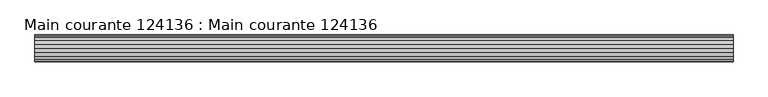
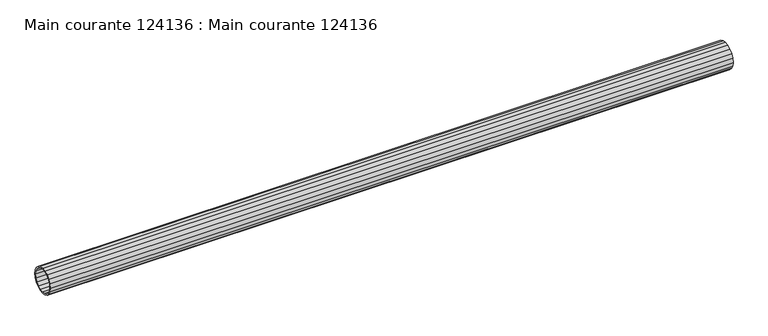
"""IFC4 building model written with IfcOpenShell, lengths in millimetres: beam geometry, Main courante 124136 : Main courante 124136."""

from ifc_helpers import new_model, si_unit, frame, origin, place, context, project, spatial, polyline, outline, extrude, source, transform, mapped, element, save


def main_courante_124136_main_courante_124136_9aaa94e9(model_context):
    return source(origin(), model_context, "Body", "SweptSolid", [
        extrude(outline(polyline([(-35749.8127604, 8787.9680149), (-35742.35, 8789.15), (-35734.8872396, 8787.9680149), (-35728.1549862, 8784.5377604), (-35722.8122396, 8779.1950138), (-35719.3819851, 8772.4627604), (-35718.2, 8765.0), (-35719.3819851, 8757.5372396), (-35722.8122396, 8750.8049862), (-35728.1549862, 8745.4622396), (-35734.8872396, 8742.0319851), (-35742.35, 8740.85), (-35749.8127604, 8742.0319851), (-35756.5450138, 8745.4622396), (-35761.8877604, 8750.8049862), (-35765.3180149, 8757.5372396), (-35766.5, 8765.0), (-35765.3180149, 8772.4627604), (-35761.8877604, 8779.1950138), (-35756.5450138, 8784.5377604), (-35749.8127604, 8787.9680149)]), holes=[polyline([(-35721.7596264, 8771.6902179), (-35724.8347821, 8777.7255507), (-35729.6244493, 8782.5152179), (-35735.6597821, 8785.5903736), (-35742.35, 8786.65), (-35749.0402179, 8785.5903736), (-35755.0755507, 8782.5152179), (-35759.8652179, 8777.7255507), (-35762.9403736, 8771.6902179), (-35764.0, 8765.0), (-35762.9403736, 8758.3097821), (-35759.8652179, 8752.2744493), (-35755.0755507, 8747.4847821), (-35749.0402179, 8744.4096264), (-35742.35, 8743.35), (-35735.6597821, 8744.4096264), (-35729.6244493, 8747.4847821), (-35724.8347821, 8752.2744493), (-35721.7596264, 8758.3097821), (-35720.7, 8765.0), (-35721.7596264, 8771.6902179)])]), frame((3754.4999999, 0.0, 0.0), z_axis=(1.0, 0.0, 0.0), x_axis=(0.0, 1.0, 0.0)), (0.0, 0.0, 1.0), 1249.5),
    ])


if __name__ == "__main__":
    model = new_model("IFC4")
    model_context = context("Model", 3, world=origin())
    ifc_project = project(units=[si_unit("LENGTHUNIT", "METRE", prefix="MILLI")], contexts=[model_context])
    site = spatial("IfcSite", under=ifc_project)
    building = spatial("IfcBuilding", under=site)
    placement = place(None, origin())
    main_courante_124136_main_courante_124136_shape = main_courante_124136_main_courante_124136_9aaa94e9(model_context)
    element("IfcBeam", 1, ObjectType="Main courante 124136 : Main courante 124136", at=placement, inside=building, context=model_context, shape_type="MappedRepresentation", body=[
        mapped(main_courante_124136_main_courante_124136_shape, transform((0.0, 0.0, 0.0), x_axis=(1.0, 0.0, 0.0), y_axis=(0.0, 1.0, 0.0), z_axis=(0.0, 0.0, 1.0))),
    ])
    save(model, "model.ifc")
